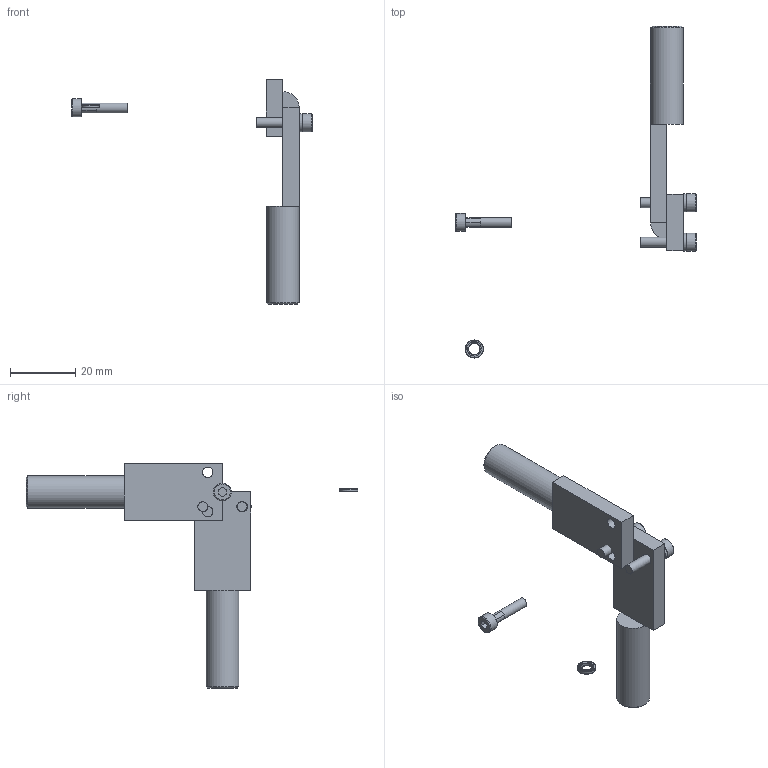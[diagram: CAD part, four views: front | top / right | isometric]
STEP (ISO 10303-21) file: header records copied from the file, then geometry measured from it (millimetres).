
FILE_DESCRIPTION( ( 'STEP AP214' ), '1' );
FILE_NAME( 'C:/Users/Segreteria/Desktop/CA.APGE.6.10.30.stp', '2015-11-18T16:20:51', ( ' ' ), ( ' ' ), 'XStep 1.0', ' ', ' ' );
FILE_SCHEMA( ( 'CONFIG_CONTROL_DESIGN) ( )' ) );
Length unit declared in the file: metre
Products named in the file (4): Assem1; APGE.6.10.30; R.3.SCH; V-tcei M  3 x 14
Bounding box: 73.5 x 101.39 x 68.66 mm (x, y, z)
Volume: 8720.1 mm3; surface area: 7209.4 mm2
Topology: 8 solids, 8 shells, 654 faces, 2222 edges, 1584 vertices
Faces by surface type: plane 624, cylinder 20, torus 6, cone 4
Full cylindrical faces by diameter (mm): 3 x3, 3.2 x4, 3.5 x3, 5.5 x6, 6 x2, 10 x2
Entity records: 9914 total; most frequent: CARTESIAN_POINT 1501, ORIENTED_EDGE 1476, DIRECTION 1405, EDGE_CURVE 738, VERTEX_POINT 534, LINE 529, VECTOR 529, AXIS2_PLACEMENT_3D 438
